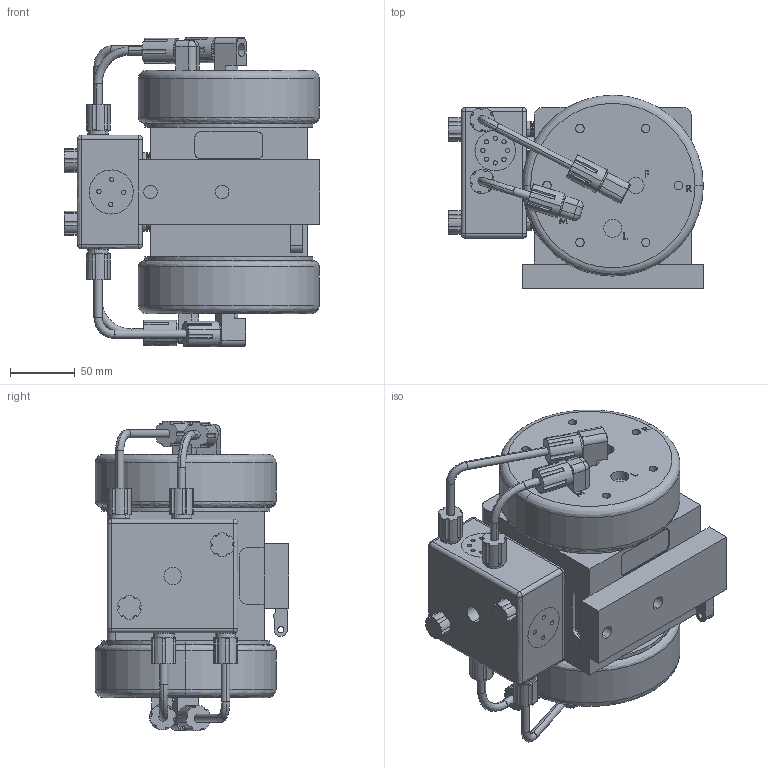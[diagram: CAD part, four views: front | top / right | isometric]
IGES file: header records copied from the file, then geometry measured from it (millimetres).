
Start section: SolidWorks IGES file using analytic representation for surfaces
Global section: file name: \\server\Users\Karen.Bodily\My Documents\PSU Defeatured\PSU030_with shuttle.IGS; native system: SolidWorks 2012; preprocessor: SolidWorks 2012; author: karen.bodily; date: 130725.110731; units: inch
Bounding box: 196.93 x 149.4 x 239.32 mm (x, y, z)
Volume: 3410731.8 mm3; surface area: 214135.2 mm2
Topology: 1 solids, 5 shells, 1407 faces, 3632 edges, 2379 vertices
Faces by surface type: plane 828, revolution 409, bspline 170
